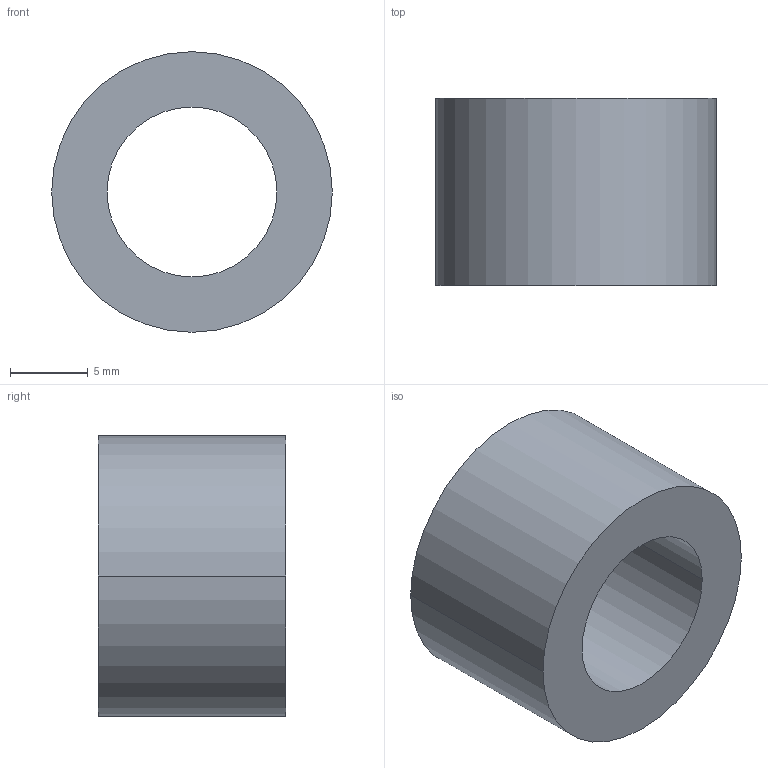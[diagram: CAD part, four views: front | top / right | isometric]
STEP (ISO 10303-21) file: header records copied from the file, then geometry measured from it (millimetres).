
FILE_DESCRIPTION (( 'STEP AP203' ), '1' );
FILE_NAME ('30800.WPP18E10.9.step', '2019-01-23T22:35:53', ( '' ), ( '' ), 'SwSTEP 2.0', 'SolidWorks 2017', '' );
FILE_SCHEMA (( 'CONFIG_CONTROL_DESIGN' ));
Length unit declared in the file: millimetre
Products named in the file (1): 30800.WPP18E10.9
Bounding box: 18 x 12 x 18 mm (x, y, z)
Volume: 1902.1 mm3; surface area: 1384.2 mm2
Topology: 1 solids, 1 shells, 8 faces, 16 edges, 10 vertices
Faces by surface type: cylinder 4, torus 2, plane 2
Entity records: 297 total; most frequent: DIRECTION 46, CARTESIAN_POINT 35, ORIENTED_EDGE 32, AXIS2_PLACEMENT_3D 21, EDGE_CURVE 16, CIRCLE 12, VERTEX_POINT 10, EDGE_LOOP 10
